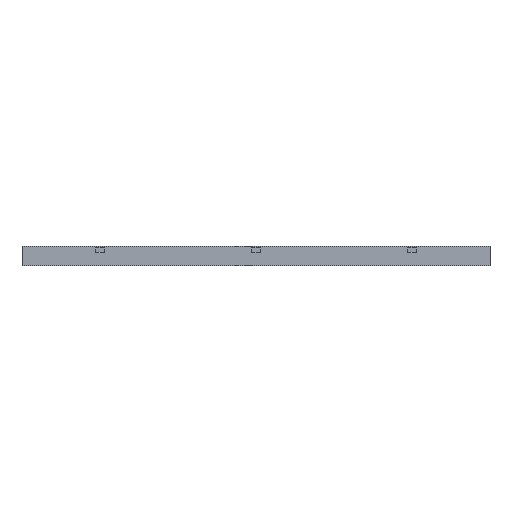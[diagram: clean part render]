
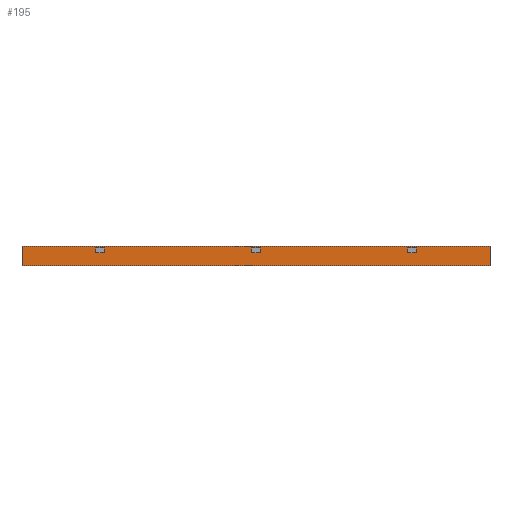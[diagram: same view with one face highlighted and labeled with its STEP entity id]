
A CAD part, left-side view. The second image highlights one B-rep face of the part: STEP entity #195.
In plain terms, the highlighted planar face has unit normal (-1, 0, 0).
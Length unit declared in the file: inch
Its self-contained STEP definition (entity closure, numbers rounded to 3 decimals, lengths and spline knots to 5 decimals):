
#17=FACE_BOUND('',#643,.T.);
#18=FACE_BOUND('',#644,.T.);
#19=FACE_BOUND('',#645,.T.);
#195=ADVANCED_FACE('',(#417,#17,#18,#19),#3789,.T.);
#417=FACE_OUTER_BOUND('',#642,.T.);
#642=EDGE_LOOP('',(#1272,#1273,#1274,#1275));
#643=EDGE_LOOP('',(#1276,#1277,#1278,#1279));
#644=EDGE_LOOP('',(#1280,#1281,#1282,#1283));
#645=EDGE_LOOP('',(#1284,#1285,#1286,#1287));
#1272=ORIENTED_EDGE('',*,*,#2368,.T.);
#1273=ORIENTED_EDGE('',*,*,#2369,.T.);
#1274=ORIENTED_EDGE('',*,*,#2370,.T.);
#1275=ORIENTED_EDGE('',*,*,#2371,.T.);
#1276=ORIENTED_EDGE('',*,*,#2162,.F.);
#1277=ORIENTED_EDGE('',*,*,#2192,.F.);
#1278=ORIENTED_EDGE('',*,*,#2129,.F.);
#1279=ORIENTED_EDGE('',*,*,#2092,.F.);
#1280=ORIENTED_EDGE('',*,*,#2318,.F.);
#1281=ORIENTED_EDGE('',*,*,#2348,.F.);
#1282=ORIENTED_EDGE('',*,*,#2285,.F.);
#1283=ORIENTED_EDGE('',*,*,#2248,.F.);
#1284=ORIENTED_EDGE('',*,*,#2375,.T.);
#1285=ORIENTED_EDGE('',*,*,#2372,.T.);
#1286=ORIENTED_EDGE('',*,*,#2373,.T.);
#1287=ORIENTED_EDGE('',*,*,#2374,.T.);
#2092=EDGE_CURVE('',#3316,#3317,#2704,.T.);
#2129=EDGE_CURVE('',#3317,#3342,#2741,.T.);
#2162=EDGE_CURVE('',#3364,#3316,#2774,.T.);
#2192=EDGE_CURVE('',#3342,#3364,#2804,.T.);
#2248=EDGE_CURVE('',#3420,#3421,#2860,.T.);
#2285=EDGE_CURVE('',#3421,#3446,#2897,.T.);
#2318=EDGE_CURVE('',#3468,#3420,#2930,.T.);
#2348=EDGE_CURVE('',#3446,#3468,#2960,.T.);
#2368=EDGE_CURVE('',#3488,#3489,#2980,.T.);
#2369=EDGE_CURVE('',#3489,#3490,#2981,.T.);
#2370=EDGE_CURVE('',#3490,#3491,#2982,.T.);
#2371=EDGE_CURVE('',#3491,#3488,#2983,.T.);
#2372=EDGE_CURVE('',#3492,#3493,#2984,.T.);
#2373=EDGE_CURVE('',#3493,#3494,#2985,.T.);
#2374=EDGE_CURVE('',#3494,#3495,#2986,.T.);
#2375=EDGE_CURVE('',#3495,#3492,#2987,.T.);
#2704=B_SPLINE_CURVE_WITH_KNOTS('',1,(#5161,#5162),.UNSPECIFIED.,.F.,.F.,
(2,2),(0.,1.25),.UNSPECIFIED.);
#2741=B_SPLINE_CURVE_WITH_KNOTS('',1,(#5235,#5236),.UNSPECIFIED.,.F.,.F.,
(2,2),(0.,0.75),.UNSPECIFIED.);
#2774=B_SPLINE_CURVE_WITH_KNOTS('',1,(#5301,#5302),.UNSPECIFIED.,.F.,.F.,
(2,2),(0.,0.75),.UNSPECIFIED.);
#2804=B_SPLINE_CURVE_WITH_KNOTS('',1,(#5361,#5362),.UNSPECIFIED.,.F.,.F.,
(2,2),(0.,1.25),.UNSPECIFIED.);
#2860=B_SPLINE_CURVE_WITH_KNOTS('',1,(#5473,#5474),.UNSPECIFIED.,.F.,.F.,
(2,2),(0.,1.25),.UNSPECIFIED.);
#2897=B_SPLINE_CURVE_WITH_KNOTS('',1,(#5547,#5548),.UNSPECIFIED.,.F.,.F.,
(2,2),(0.,0.75),.UNSPECIFIED.);
#2930=B_SPLINE_CURVE_WITH_KNOTS('',1,(#5613,#5614),.UNSPECIFIED.,.F.,.F.,
(2,2),(0.,0.75),.UNSPECIFIED.);
#2960=B_SPLINE_CURVE_WITH_KNOTS('',1,(#5673,#5674),.UNSPECIFIED.,.F.,.F.,
(2,2),(0.,1.25),.UNSPECIFIED.);
#2980=B_SPLINE_CURVE_WITH_KNOTS('',1,(#5713,#5714),.UNSPECIFIED.,.F.,.F.,
(2,2),(0.,72.),.UNSPECIFIED.);
#2981=B_SPLINE_CURVE_WITH_KNOTS('',1,(#5715,#5716),.UNSPECIFIED.,.F.,.F.,
(2,2),(0.,3.),.UNSPECIFIED.);
#2982=B_SPLINE_CURVE_WITH_KNOTS('',1,(#5717,#5718),.UNSPECIFIED.,.F.,.F.,
(2,2),(0.,72.),.UNSPECIFIED.);
#2983=B_SPLINE_CURVE_WITH_KNOTS('',1,(#5719,#5720),.UNSPECIFIED.,.F.,.F.,
(2,2),(0.,3.),.UNSPECIFIED.);
#2984=B_SPLINE_CURVE_WITH_KNOTS('',1,(#5721,#5722),.UNSPECIFIED.,.F.,.F.,
(2,2),(0.,1.25),.UNSPECIFIED.);
#2985=B_SPLINE_CURVE_WITH_KNOTS('',1,(#5723,#5724),.UNSPECIFIED.,.F.,.F.,
(2,2),(0.,0.75),.UNSPECIFIED.);
#2986=B_SPLINE_CURVE_WITH_KNOTS('',1,(#5725,#5726),.UNSPECIFIED.,.F.,.F.,
(2,2),(0.,1.25),.UNSPECIFIED.);
#2987=B_SPLINE_CURVE_WITH_KNOTS('',1,(#5727,#5728),.UNSPECIFIED.,.F.,.F.,
(2,2),(0.,0.75),.UNSPECIFIED.);
#3316=VERTEX_POINT('',#4709);
#3317=VERTEX_POINT('',#4710);
#3342=VERTEX_POINT('',#4735);
#3364=VERTEX_POINT('',#4757);
#3420=VERTEX_POINT('',#4813);
#3421=VERTEX_POINT('',#4814);
#3446=VERTEX_POINT('',#4839);
#3468=VERTEX_POINT('',#4861);
#3488=VERTEX_POINT('',#4881);
#3489=VERTEX_POINT('',#4882);
#3490=VERTEX_POINT('',#4883);
#3491=VERTEX_POINT('',#4884);
#3492=VERTEX_POINT('',#4885);
#3493=VERTEX_POINT('',#4886);
#3494=VERTEX_POINT('',#4887);
#3495=VERTEX_POINT('',#4888);
#3789=PLANE('',#4102);
#4102=AXIS2_PLACEMENT_3D('',#4552,#4327,$);
#4327=DIRECTION('',(-1.,0.,0.));
#4552=CARTESIAN_POINT('',(-21.25,43.20472,1.80472));
#4709=CARTESIAN_POINT('',(-21.25,23.375,1.25));
#4710=CARTESIAN_POINT('',(-21.25,24.625,1.25));
#4735=CARTESIAN_POINT('',(-21.25,24.625,0.5));
#4757=CARTESIAN_POINT('',(-21.25,23.375,0.5));
#4813=CARTESIAN_POINT('',(-21.25,-0.625,1.25));
#4814=CARTESIAN_POINT('',(-21.25,0.625,1.25));
#4839=CARTESIAN_POINT('',(-21.25,0.625,0.5));
#4861=CARTESIAN_POINT('',(-21.25,-0.625,0.5));
#4881=CARTESIAN_POINT('',(-21.25,36.,-1.5));
#4882=CARTESIAN_POINT('',(-21.25,-36.,-1.5));
#4883=CARTESIAN_POINT('',(-21.25,-36.,1.5));
#4884=CARTESIAN_POINT('',(-21.25,36.,1.5));
#4885=CARTESIAN_POINT('',(-21.25,-23.375,1.25));
#4886=CARTESIAN_POINT('',(-21.25,-24.625,1.25));
#4887=CARTESIAN_POINT('',(-21.25,-24.625,0.5));
#4888=CARTESIAN_POINT('',(-21.25,-23.375,0.5));
#5161=CARTESIAN_POINT('',(-21.25,23.375,1.25));
#5162=CARTESIAN_POINT('',(-21.25,24.625,1.25));
#5235=CARTESIAN_POINT('',(-21.25,24.625,1.25));
#5236=CARTESIAN_POINT('',(-21.25,24.625,0.5));
#5301=CARTESIAN_POINT('',(-21.25,23.375,0.5));
#5302=CARTESIAN_POINT('',(-21.25,23.375,1.25));
#5361=CARTESIAN_POINT('',(-21.25,24.625,0.5));
#5362=CARTESIAN_POINT('',(-21.25,23.375,0.5));
#5473=CARTESIAN_POINT('',(-21.25,-0.625,1.25));
#5474=CARTESIAN_POINT('',(-21.25,0.625,1.25));
#5547=CARTESIAN_POINT('',(-21.25,0.625,1.25));
#5548=CARTESIAN_POINT('',(-21.25,0.625,0.5));
#5613=CARTESIAN_POINT('',(-21.25,-0.625,0.5));
#5614=CARTESIAN_POINT('',(-21.25,-0.625,1.25));
#5673=CARTESIAN_POINT('',(-21.25,0.625,0.5));
#5674=CARTESIAN_POINT('',(-21.25,-0.625,0.5));
#5713=CARTESIAN_POINT('',(-21.25,36.,-1.5));
#5714=CARTESIAN_POINT('',(-21.25,-36.,-1.5));
#5715=CARTESIAN_POINT('',(-21.25,-36.,-1.5));
#5716=CARTESIAN_POINT('',(-21.25,-36.,1.5));
#5717=CARTESIAN_POINT('',(-21.25,-36.,1.5));
#5718=CARTESIAN_POINT('',(-21.25,36.,1.5));
#5719=CARTESIAN_POINT('',(-21.25,36.,1.5));
#5720=CARTESIAN_POINT('',(-21.25,36.,-1.5));
#5721=CARTESIAN_POINT('',(-21.25,-23.375,1.25));
#5722=CARTESIAN_POINT('',(-21.25,-24.625,1.25));
#5723=CARTESIAN_POINT('',(-21.25,-24.625,1.25));
#5724=CARTESIAN_POINT('',(-21.25,-24.625,0.5));
#5725=CARTESIAN_POINT('',(-21.25,-24.625,0.5));
#5726=CARTESIAN_POINT('',(-21.25,-23.375,0.5));
#5727=CARTESIAN_POINT('',(-21.25,-23.375,0.5));
#5728=CARTESIAN_POINT('',(-21.25,-23.375,1.25));
